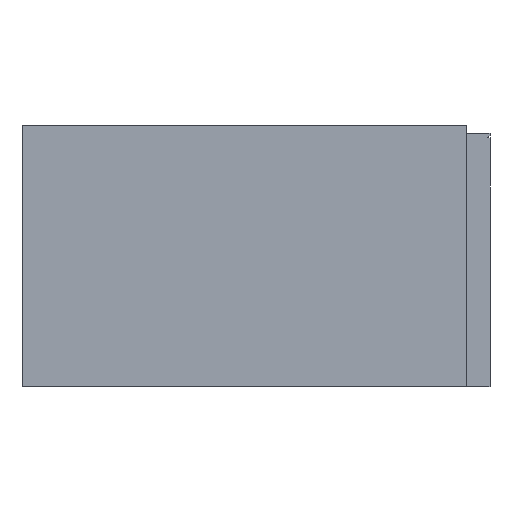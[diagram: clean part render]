
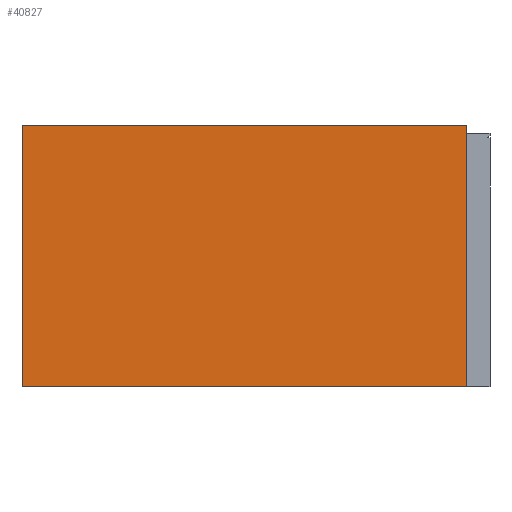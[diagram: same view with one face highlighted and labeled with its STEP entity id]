
A CAD part, left-side view. The second image highlights one B-rep face of the part: STEP entity #40827.
In plain terms, the highlighted planar face has unit normal (-1, 0, 0).
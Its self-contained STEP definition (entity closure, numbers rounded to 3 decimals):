
#2227=PLANE('',#44446);
#4232=FACE_OUTER_BOUND('',#6671,.T.);
#6671=EDGE_LOOP('',(#35515,#35516,#35517,#35518));
#8201=LINE('',#61555,#11616);
#10007=LINE('',#75684,#13422);
#10008=LINE('',#75686,#13423);
#10009=LINE('',#75687,#13424);
#11616=VECTOR('',#49385,10.);
#13422=VECTOR('',#54385,10.);
#13423=VECTOR('',#54386,10.);
#13424=VECTOR('',#54387,10.);
#17196=VERTEX_POINT('',#61552);
#17197=VERTEX_POINT('',#61554);
#19182=VERTEX_POINT('',#75683);
#19183=VERTEX_POINT('',#75685);
#21754=EDGE_CURVE('',#17197,#17196,#8201,.T.);
#24773=EDGE_CURVE('',#19182,#17197,#10007,.T.);
#24774=EDGE_CURVE('',#19183,#17196,#10008,.T.);
#24775=EDGE_CURVE('',#19183,#19182,#10009,.T.);
#35515=ORIENTED_EDGE('',*,*,#24773,.T.);
#35516=ORIENTED_EDGE('',*,*,#21754,.T.);
#35517=ORIENTED_EDGE('',*,*,#24774,.F.);
#35518=ORIENTED_EDGE('',*,*,#24775,.T.);
#40827=ADVANCED_FACE('',(#4232),#2227,.T.);
#44446=AXIS2_PLACEMENT_3D('',#75682,#54383,#54384);
#49385=DIRECTION('',(0.,0.,1.));
#54383=DIRECTION('center_axis',(-1.,0.,0.));
#54384=DIRECTION('ref_axis',(0.,-1.,0.));
#54385=DIRECTION('',(0.,-1.,0.));
#54386=DIRECTION('',(0.,-1.,0.));
#54387=DIRECTION('',(0.,0.,-1.));
#61552=CARTESIAN_POINT('',(-850.,-850.,700.));
#61554=CARTESIAN_POINT('',(-850.,-850.,-300.));
#61555=CARTESIAN_POINT('',(-850.,-850.,0.));
#75682=CARTESIAN_POINT('Origin',(-850.,838.,-300.));
#75683=CARTESIAN_POINT('',(-850.,850.,-300.));
#75684=CARTESIAN_POINT('',(-850.,838.,-300.));
#75685=CARTESIAN_POINT('',(-850.,850.,700.));
#75686=CARTESIAN_POINT('',(-850.,850.,700.));
#75687=CARTESIAN_POINT('',(-850.,850.,0.));
